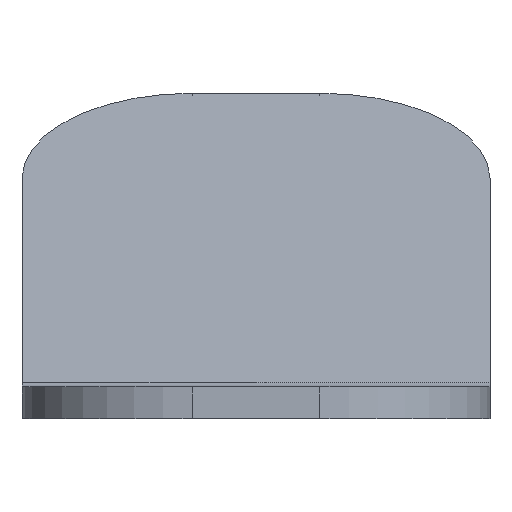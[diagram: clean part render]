
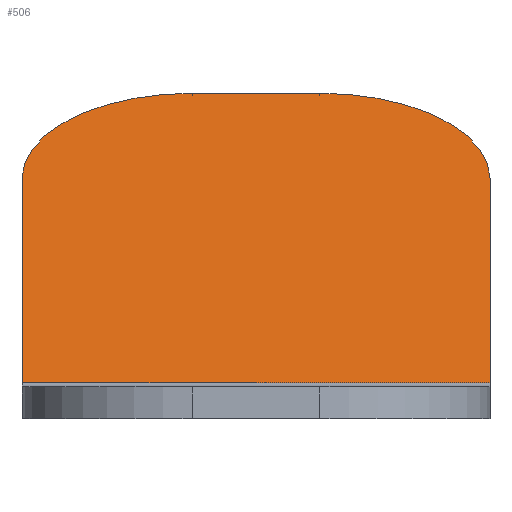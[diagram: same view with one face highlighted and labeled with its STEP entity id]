
A CAD part, front view. The second image highlights one B-rep face of the part: STEP entity #506.
In plain terms, the highlighted planar face has unit normal (0, -0.5, 0.866).
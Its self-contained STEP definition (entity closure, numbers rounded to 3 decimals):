
#1 = CIRCLE ( 'NONE', #484, 8. ) ;
#8 = AXIS2_PLACEMENT_3D ( 'NONE', #337, #176, #88 ) ;
#31 = CARTESIAN_POINT ( 'NONE',  ( 22., 50.75, 0.201 ) ) ;
#46 = VECTOR ( 'NONE', #304, 1000. ) ;
#47 = VERTEX_POINT ( 'NONE', #488 ) ;
#54 = VERTEX_POINT ( 'NONE', #497 ) ;
#57 = ORIENTED_EDGE ( 'NONE', *, *, #410, .F. ) ;
#62 = CARTESIAN_POINT ( 'NONE',  ( 22., 50.402, 0. ) ) ;
#73 = LINE ( 'NONE', #31, #430 ) ;
#82 = CARTESIAN_POINT ( 'NONE',  ( 14., 67.374, 9.799 ) ) ;
#88 = DIRECTION ( 'NONE',  ( 0., -0.866, -0.5 ) ) ;
#89 = DIRECTION ( 'NONE',  ( 0., -0.5, 0.866 ) ) ;
#119 = VECTOR ( 'NONE', #243, 1000. ) ;
#121 = DIRECTION ( 'NONE',  ( 0., -0.866, -0.5 ) ) ;
#126 = ORIENTED_EDGE ( 'NONE', *, *, #145, .F. ) ;
#136 = VERTEX_POINT ( 'NONE', #397 ) ;
#142 = FACE_OUTER_BOUND ( 'NONE', #276, .T. ) ;
#145 = EDGE_CURVE ( 'NONE', #47, #136, #433, .T. ) ;
#151 = CARTESIAN_POINT ( 'NONE',  ( 22., 74.303, 13.799 ) ) ;
#157 = EDGE_CURVE ( 'NONE', #200, #361, #186, .T. ) ;
#176 = DIRECTION ( 'NONE',  ( 0., -0.5, 0.866 ) ) ;
#186 = CIRCLE ( 'NONE', #348, 8. ) ;
#200 = VERTEX_POINT ( 'NONE', #406 ) ;
#202 = ORIENTED_EDGE ( 'NONE', *, *, #157, .T. ) ;
#206 = CARTESIAN_POINT ( 'NONE',  ( 0., 74.303, 13.799 ) ) ;
#208 = ORIENTED_EDGE ( 'NONE', *, *, #221, .T. ) ;
#221 = EDGE_CURVE ( 'NONE', #47, #54, #1, .T. ) ;
#226 = CARTESIAN_POINT ( 'NONE',  ( 8., 67.374, 9.799 ) ) ;
#233 = DIRECTION ( 'NONE',  ( -1., 0., 0. ) ) ;
#236 = LINE ( 'NONE', #151, #396 ) ;
#243 = DIRECTION ( 'NONE',  ( 0., 0.866, 0.5 ) ) ;
#276 = EDGE_LOOP ( 'NONE', ( #126, #208, #57, #202, #320, #443 ) ) ;
#288 = PLANE ( 'NONE',  #8 ) ;
#292 = EDGE_CURVE ( 'NONE', #427, #361, #536, .T. ) ;
#304 = DIRECTION ( 'NONE',  ( 0., -0.866, -0.5 ) ) ;
#320 = ORIENTED_EDGE ( 'NONE', *, *, #292, .F. ) ;
#337 = CARTESIAN_POINT ( 'NONE',  ( 0., 12.902, -21.651 ) ) ;
#348 = AXIS2_PLACEMENT_3D ( 'NONE', #226, #472, #475 ) ;
#361 = VERTEX_POINT ( 'NONE', #531 ) ;
#396 = VECTOR ( 'NONE', #439, 1000. ) ;
#397 = CARTESIAN_POINT ( 'NONE',  ( 22., 50.75, 0.201 ) ) ;
#406 = CARTESIAN_POINT ( 'NONE',  ( 8., 74.303, 13.799 ) ) ;
#410 = EDGE_CURVE ( 'NONE', #200, #54, #236, .T. ) ;
#427 = VERTEX_POINT ( 'NONE', #481 ) ;
#428 = EDGE_CURVE ( 'NONE', #136, #427, #73, .T. ) ;
#430 = VECTOR ( 'NONE', #233, 1000. ) ;
#433 = LINE ( 'NONE', #62, #46 ) ;
#439 = DIRECTION ( 'NONE',  ( 1., 0., 0. ) ) ;
#443 = ORIENTED_EDGE ( 'NONE', *, *, #428, .F. ) ;
#472 = DIRECTION ( 'NONE',  ( 0., -0.5, 0.866 ) ) ;
#475 = DIRECTION ( 'NONE',  ( 0., -0.866, -0.5 ) ) ;
#481 = CARTESIAN_POINT ( 'NONE',  ( 0., 50.75, 0.201 ) ) ;
#484 = AXIS2_PLACEMENT_3D ( 'NONE', #82, #89, #121 ) ;
#488 = CARTESIAN_POINT ( 'NONE',  ( 22., 67.374, 9.799 ) ) ;
#497 = CARTESIAN_POINT ( 'NONE',  ( 14., 74.303, 13.799 ) ) ;
#506 = ADVANCED_FACE ( 'NONE', ( #142 ), #288, .T. ) ;
#531 = CARTESIAN_POINT ( 'NONE',  ( 0., 67.374, 9.799 ) ) ;
#536 = LINE ( 'NONE', #206, #119 ) ;
